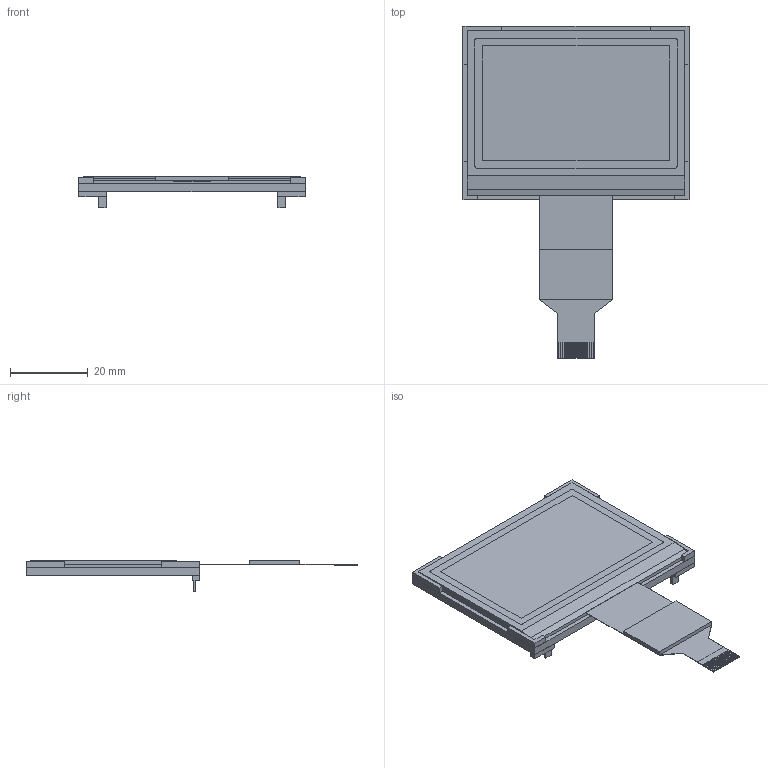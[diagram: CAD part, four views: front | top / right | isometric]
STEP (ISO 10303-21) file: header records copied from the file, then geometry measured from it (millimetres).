
FILE_DESCRIPTION (( 'STEP AP214' ), '1' );
FILE_NAME ('CFAG240128U0-TFH.STEP', '2022-10-18T22:28:58', ( '' ), ( '' ), 'SwSTEP 2.0', 'SolidWorks 2021', '' );
FILE_SCHEMA (( 'AUTOMOTIVE_DESIGN' ));
Length unit declared in the file: millimetre
Products named in the file (3): CFAG240128U0-TFH; CFAG240128U0-NFH; Backlight frame
Assembly tree (2 placements, depth 2):
  CFAG240128U0-TFH
    Backlight frame
    CFAG240128U0-NFH
Bounding box: 58.2 x 85.46 x 8.15 mm (x, y, z)
Volume: 10128.3 mm3; surface area: 18140.6 mm2
Topology: 33 solids, 33 shells, 218 faces, 468 edges, 320 vertices
Faces by surface type: plane 218
Entity records: 7884 total; most frequent: CARTESIAN_POINT 1011, ORIENTED_EDGE 936, DIRECTION 922, EDGE_CURVE 468, VECTOR 460, LINE 460, VERTEX_POINT 320, AXIS2_PLACEMENT_3D 231
